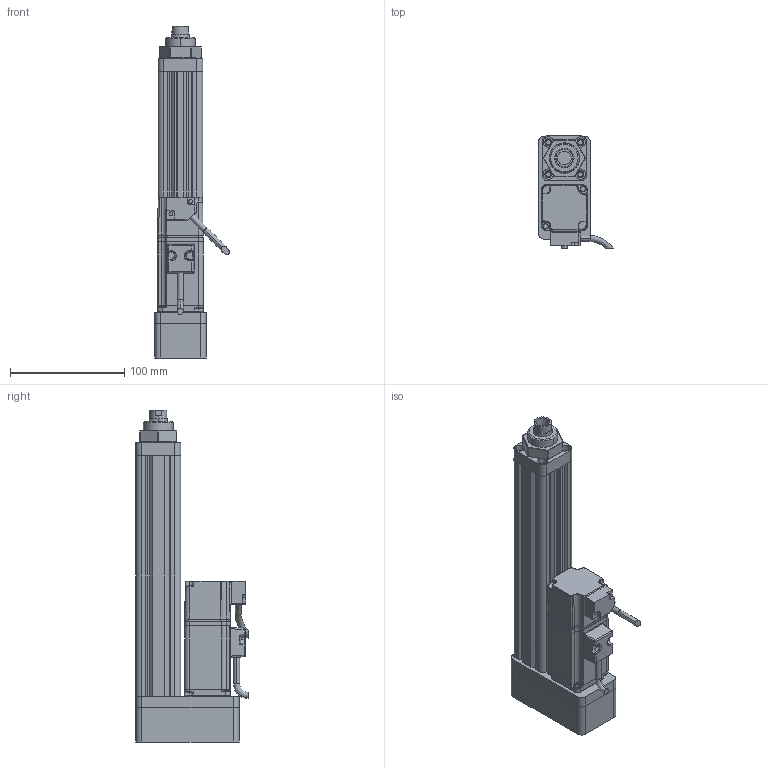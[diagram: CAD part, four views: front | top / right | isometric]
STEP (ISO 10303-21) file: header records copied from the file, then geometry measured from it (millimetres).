
FILE_DESCRIPTION (( 'STEP AP214' ), '1' );
FILE_NAME ('039-S150-D02-B-M4-C2-2.STEP', '2021-02-25T08:59:48', ( '' ), ( '' ), 'SwSTEP 2.0', 'SolidWorks 2018', '' );
FILE_SCHEMA (( 'AUTOMOTIVE_DESIGN' ));
Length unit declared in the file: millimetre
Products named in the file (8): 039-S150-D02-B-M4-C2-2; CMC039-FL; CMC039-HXT; CMC039-LJB; CMC039-DT; CMC039-M261; CMC039-GT; ECMA-CX0401ES-40框號系列機種-100W低慣量系列
Assembly tree (7 placements, depth 2):
  039-S150-D02-B-M4-C2-2
    CMC039-GT
    CMC039-LJB
    CMC039-FL
    CMC039-DT
    ECMA-CX0401ES-40框號系列機種-100W低慣量系列
    CMC039-M261
    CMC039-HXT
Bounding box: 65.34 x 97.89 x 290 mm (x, y, z)
Volume: 453213.9 mm3; surface area: 147941 mm2
Topology: 7 solids, 15 shells, 697 faces, 1812 edges, 1126 vertices
Faces by surface type: cylinder 287, plane 269, bspline 84, cone 57
Entity records: 27531 total; most frequent: CARTESIAN_POINT 11127, ORIENTED_EDGE 3558, DIRECTION 2940, EDGE_CURVE 1779, VERTEX_POINT 1126, AXIS2_PLACEMENT_3D 1026, VECTOR 888, LINE 888
